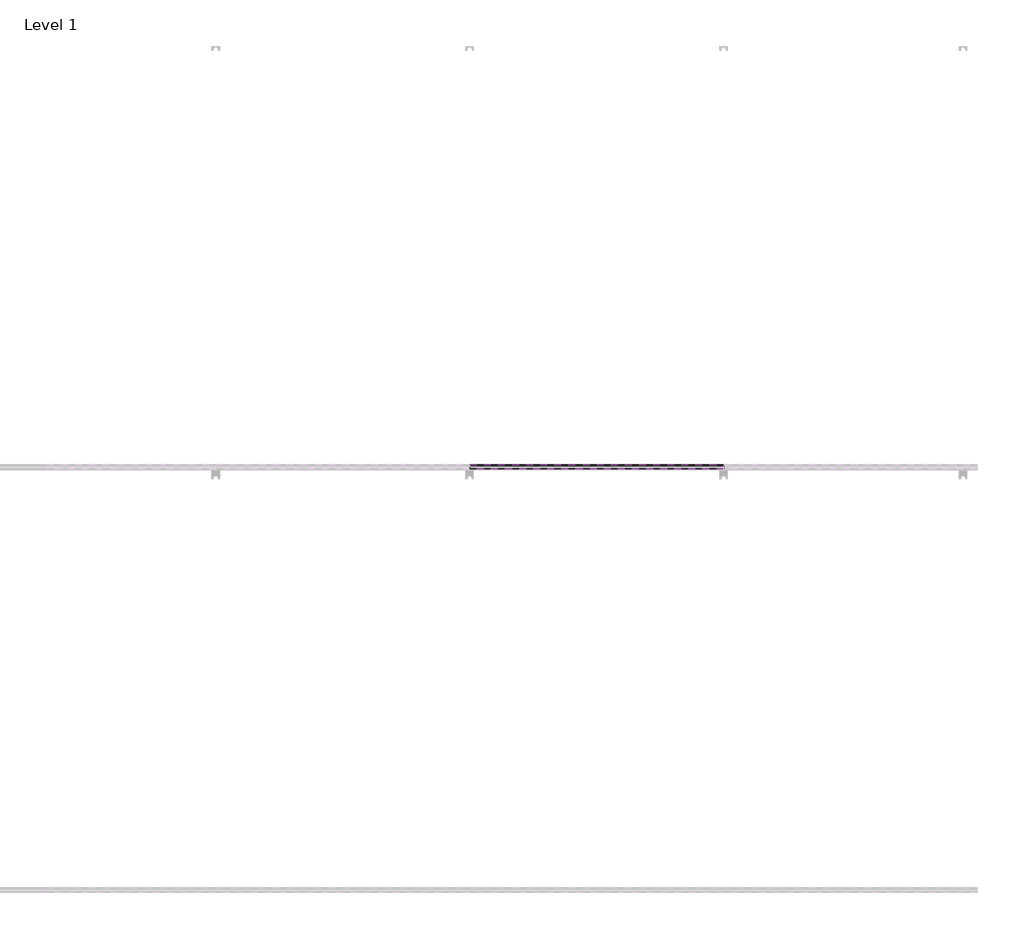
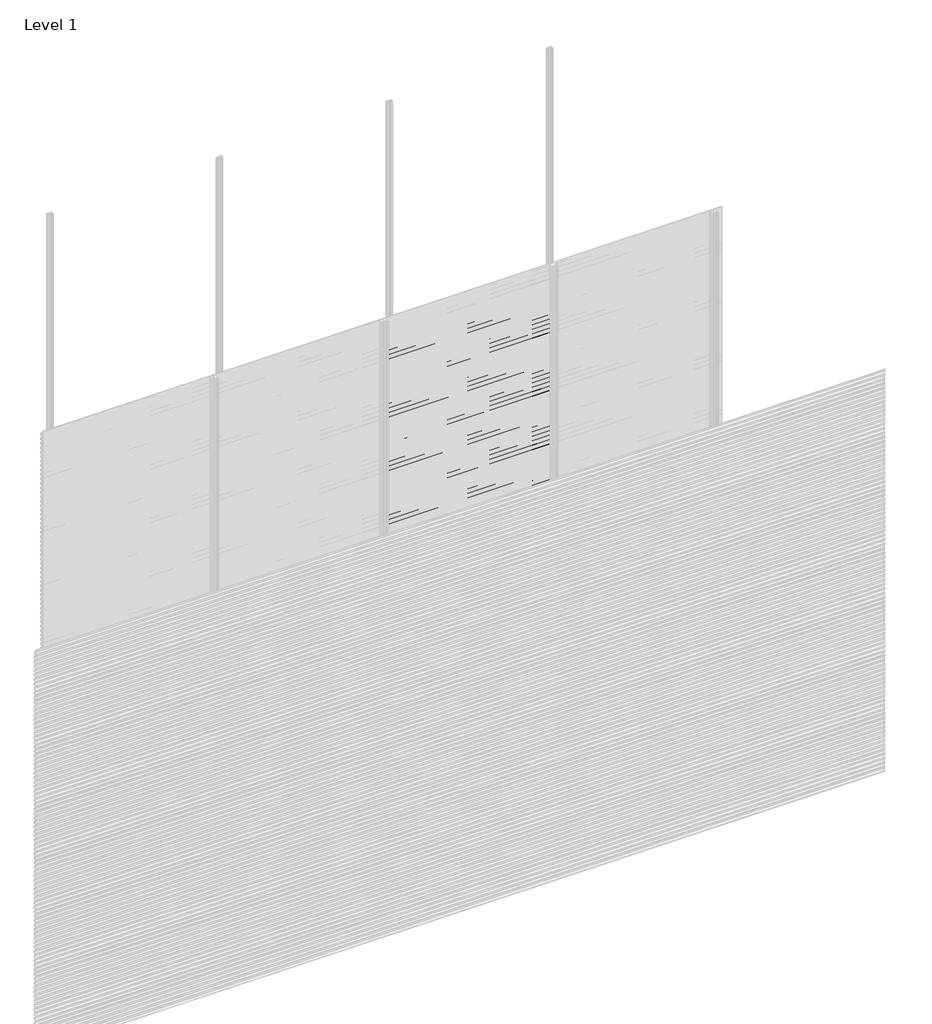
# One storey, part 61 of 77: 72 proxies.
"""IFC4 building model written with IfcOpenShell, lengths in millimetres."""

from ifc_helpers import new_model, si_unit, frame, origin, place, context, project, spatial, polyline, outline, extrude, element, save

model = new_model("IFC4")

# Units and contexts
model_context = context("Model", 3, world=origin())
ifc_project = project(units=[si_unit("LENGTHUNIT", "METRE", prefix="MILLI")], contexts=[model_context])

# Site, building, storey
site = spatial("IfcSite", under=ifc_project)
building = spatial("IfcBuilding", under=site)
storey = spatial("IfcBuildingStorey", under=building, Name="Level 1", Elevation=0.0)

# Proxies
placement = place(None, origin())
element("IfcBuildingElementProxy", 1, Name="Wall Sweeps", at=placement, inside=storey, context=model_context, shape_type="SweptSolid", body=[
    extrude(outline(polyline([(-11978.6, 2806.0359887), (-11998.0, 2817.2366691), (-11998.0, 2830.5), (-11997.0, 2830.5), (-11997.0, 2817.8191057), (-11977.6, 2806.6185105), (-11977.6, 2793.0185105), (-11978.6, 2794.5953129), (-11978.6, 2800.4032062), (-11995.9773817, 2792.3), (-11996.4, 2793.2063078), (-11978.6, 2801.5065841), (-11978.6, 2806.0359887)])), frame((3600.0, 0.0, 0.0), z_axis=(1.0, 0.0, 0.0), x_axis=(0.0, 1.0, 0.0)), (0.0, 0.0, 1.0), 1200.0),
])
element("IfcBuildingElementProxy", 2, Name="Wall Sweeps", at=placement, inside=storey, context=model_context, shape_type="SweptSolid", body=[
    extrude(outline(polyline([(-11978.6, 2772.7359887), (-11998.0, 2783.9366691), (-11998.0, 2797.2), (-11997.0, 2797.2), (-11997.0, 2784.5191057), (-11977.6, 2773.3185105), (-11977.6, 2759.7185105), (-11978.6, 2761.2953129), (-11978.6, 2767.1032062), (-11995.9773817, 2759.0), (-11996.4, 2759.9063078), (-11978.6, 2768.2065841), (-11978.6, 2772.7359887)])), frame((3600.0, 0.0, 0.0), z_axis=(1.0, 0.0, 0.0), x_axis=(0.0, 1.0, 0.0)), (0.0, 0.0, 1.0), 1200.0),
])
element("IfcBuildingElementProxy", 3, Name="Wall Sweeps", at=placement, inside=storey, context=model_context, shape_type="SweptSolid", body=[
    extrude(outline(polyline([(-11978.6, 2739.4359887), (-11998.0, 2750.6366691), (-11998.0, 2763.9), (-11997.0, 2763.9), (-11997.0, 2751.2191057), (-11977.6, 2740.0185105), (-11977.6, 2726.4185105), (-11978.6, 2727.9953129), (-11978.6, 2733.8032062), (-11995.9773817, 2725.7), (-11996.4, 2726.6063078), (-11978.6, 2734.9065841), (-11978.6, 2739.4359887)])), frame((3600.0, 0.0, 0.0), z_axis=(1.0, 0.0, 0.0), x_axis=(0.0, 1.0, 0.0)), (0.0, 0.0, 1.0), 1200.0),
])
element("IfcBuildingElementProxy", 4, Name="Wall Sweeps", at=placement, inside=storey, context=model_context, shape_type="SweptSolid", body=[
    extrude(outline(polyline([(-11978.6, 2706.1359887), (-11998.0, 2717.3366691), (-11998.0, 2730.6), (-11997.0, 2730.6), (-11997.0, 2717.9191057), (-11977.6, 2706.7185105), (-11977.6, 2693.1185105), (-11978.6, 2694.6953129), (-11978.6, 2700.5032062), (-11995.9773817, 2692.4), (-11996.4, 2693.3063078), (-11978.6, 2701.6065841), (-11978.6, 2706.1359887)])), frame((3600.0, 0.0, 0.0), z_axis=(1.0, 0.0, 0.0), x_axis=(0.0, 1.0, 0.0)), (0.0, 0.0, 1.0), 1200.0),
])
element("IfcBuildingElementProxy", 5, Name="Wall Sweeps", at=placement, inside=storey, context=model_context, shape_type="SweptSolid", body=[
    extrude(outline(polyline([(-11978.6, 2672.8359887), (-11998.0, 2684.0366691), (-11998.0, 2697.3), (-11997.0, 2697.3), (-11997.0, 2684.6191057), (-11977.6, 2673.4185105), (-11977.6, 2659.8185105), (-11978.6, 2661.3953129), (-11978.6, 2667.2032062), (-11995.9773817, 2659.1), (-11996.4, 2660.0063078), (-11978.6, 2668.3065841), (-11978.6, 2672.8359887)])), frame((3600.0, 0.0, 0.0), z_axis=(1.0, 0.0, 0.0), x_axis=(0.0, 1.0, 0.0)), (0.0, 0.0, 1.0), 1200.0),
])
element("IfcBuildingElementProxy", 6, Name="Wall Sweeps", at=placement, inside=storey, context=model_context, shape_type="SweptSolid", body=[
    extrude(outline(polyline([(-11978.6, 2639.5359887), (-11998.0, 2650.7366691), (-11998.0, 2664.0), (-11997.0, 2664.0), (-11997.0, 2651.3191057), (-11977.6, 2640.1185105), (-11977.6, 2626.5185105), (-11978.6, 2628.0953129), (-11978.6, 2633.9032062), (-11995.9773817, 2625.8), (-11996.4, 2626.7063078), (-11978.6, 2635.0065841), (-11978.6, 2639.5359887)])), frame((3600.0, 0.0, 0.0), z_axis=(1.0, 0.0, 0.0), x_axis=(0.0, 1.0, 0.0)), (0.0, 0.0, 1.0), 1200.0),
])
element("IfcBuildingElementProxy", 7, Name="Wall Sweeps", at=placement, inside=storey, context=model_context, shape_type="SweptSolid", body=[
    extrude(outline(polyline([(-11978.6, 2606.2359887), (-11998.0, 2617.4366691), (-11998.0, 2630.7), (-11997.0, 2630.7), (-11997.0, 2618.0191057), (-11977.6, 2606.8185105), (-11977.6, 2593.2185105), (-11978.6, 2594.7953129), (-11978.6, 2600.6032062), (-11995.9773817, 2592.5), (-11996.4, 2593.4063078), (-11978.6, 2601.7065841), (-11978.6, 2606.2359887)])), frame((3600.0, 0.0, 0.0), z_axis=(1.0, 0.0, 0.0), x_axis=(0.0, 1.0, 0.0)), (0.0, 0.0, 1.0), 1200.0),
])
element("IfcBuildingElementProxy", 8, Name="Wall Sweeps", at=placement, inside=storey, context=model_context, shape_type="SweptSolid", body=[
    extrude(outline(polyline([(-11978.6, 2572.9359887), (-11998.0, 2584.1366691), (-11998.0, 2597.4), (-11997.0, 2597.4), (-11997.0, 2584.7191057), (-11977.6, 2573.5185105), (-11977.6, 2559.9185105), (-11978.6, 2561.4953129), (-11978.6, 2567.3032062), (-11995.9773817, 2559.2), (-11996.4, 2560.1063078), (-11978.6, 2568.4065841), (-11978.6, 2572.9359887)])), frame((3600.0, 0.0, 0.0), z_axis=(1.0, 0.0, 0.0), x_axis=(0.0, 1.0, 0.0)), (0.0, 0.0, 1.0), 1200.0),
])
element("IfcBuildingElementProxy", 9, Name="Wall Sweeps", at=placement, inside=storey, context=model_context, shape_type="SweptSolid", body=[
    extrude(outline(polyline([(-11978.6, 2539.6359887), (-11998.0, 2550.8366691), (-11998.0, 2564.1), (-11997.0, 2564.1), (-11997.0, 2551.4191057), (-11977.6, 2540.2185105), (-11977.6, 2526.6185105), (-11978.6, 2528.1953129), (-11978.6, 2534.0032062), (-11995.9773817, 2525.9), (-11996.4, 2526.8063078), (-11978.6, 2535.1065841), (-11978.6, 2539.6359887)])), frame((3600.0, 0.0, 0.0), z_axis=(1.0, 0.0, 0.0), x_axis=(0.0, 1.0, 0.0)), (0.0, 0.0, 1.0), 1200.0),
])
element("IfcBuildingElementProxy", 10, Name="Wall Sweeps", at=placement, inside=storey, context=model_context, shape_type="SweptSolid", body=[
    extrude(outline(polyline([(-11978.6, 2506.3359887), (-11998.0, 2517.5366691), (-11998.0, 2530.8), (-11997.0, 2530.8), (-11997.0, 2518.1191057), (-11977.6, 2506.9185105), (-11977.6, 2493.3185105), (-11978.6, 2494.8953129), (-11978.6, 2500.7032062), (-11995.9773817, 2492.6), (-11996.4, 2493.5063078), (-11978.6, 2501.8065841), (-11978.6, 2506.3359887)])), frame((3600.0, 0.0, 0.0), z_axis=(1.0, 0.0, 0.0), x_axis=(0.0, 1.0, 0.0)), (0.0, 0.0, 1.0), 1200.0),
])
element("IfcBuildingElementProxy", 11, Name="Wall Sweeps", at=placement, inside=storey, context=model_context, shape_type="SweptSolid", body=[
    extrude(outline(polyline([(-11978.6, 2473.0359887), (-11998.0, 2484.2366691), (-11998.0, 2497.5), (-11997.0, 2497.5), (-11997.0, 2484.8191057), (-11977.6, 2473.6185105), (-11977.6, 2460.0185105), (-11978.6, 2461.5953129), (-11978.6, 2467.4032062), (-11995.9773817, 2459.3), (-11996.4, 2460.2063078), (-11978.6, 2468.5065841), (-11978.6, 2473.0359887)])), frame((3600.0, 0.0, 0.0), z_axis=(1.0, 0.0, 0.0), x_axis=(0.0, 1.0, 0.0)), (0.0, 0.0, 1.0), 1200.0),
])
element("IfcBuildingElementProxy", 12, Name="Wall Sweeps", at=placement, inside=storey, context=model_context, shape_type="SweptSolid", body=[
    extrude(outline(polyline([(-11978.6, 2439.7359887), (-11998.0, 2450.9366691), (-11998.0, 2464.2), (-11997.0, 2464.2), (-11997.0, 2451.5191057), (-11977.6, 2440.3185105), (-11977.6, 2426.7185105), (-11978.6, 2428.2953129), (-11978.6, 2434.1032062), (-11995.9773817, 2426.0), (-11996.4, 2426.9063078), (-11978.6, 2435.2065841), (-11978.6, 2439.7359887)])), frame((3600.0, 0.0, 0.0), z_axis=(1.0, 0.0, 0.0), x_axis=(0.0, 1.0, 0.0)), (0.0, 0.0, 1.0), 1200.0),
])
element("IfcBuildingElementProxy", 13, Name="Wall Sweeps", at=placement, inside=storey, context=model_context, shape_type="SweptSolid", body=[
    extrude(outline(polyline([(-11978.6, 2406.4359887), (-11998.0, 2417.6366691), (-11998.0, 2430.9), (-11997.0, 2430.9), (-11997.0, 2418.2191057), (-11977.6, 2407.0185105), (-11977.6, 2393.4185105), (-11978.6, 2394.9953129), (-11978.6, 2400.8032062), (-11995.9773817, 2392.7), (-11996.4, 2393.6063078), (-11978.6, 2401.9065841), (-11978.6, 2406.4359887)])), frame((3600.0, 0.0, 0.0), z_axis=(1.0, 0.0, 0.0), x_axis=(0.0, 1.0, 0.0)), (0.0, 0.0, 1.0), 1200.0),
])
element("IfcBuildingElementProxy", 14, Name="Wall Sweeps", at=placement, inside=storey, context=model_context, shape_type="SweptSolid", body=[
    extrude(outline(polyline([(-11978.6, 2373.1359887), (-11998.0, 2384.3366691), (-11998.0, 2397.6), (-11997.0, 2397.6), (-11997.0, 2384.9191057), (-11977.6, 2373.7185105), (-11977.6, 2360.1185105), (-11978.6, 2361.6953129), (-11978.6, 2367.5032062), (-11995.9773817, 2359.4), (-11996.4, 2360.3063078), (-11978.6, 2368.6065841), (-11978.6, 2373.1359887)])), frame((3600.0, 0.0, 0.0), z_axis=(1.0, 0.0, 0.0), x_axis=(0.0, 1.0, 0.0)), (0.0, 0.0, 1.0), 1200.0),
])
element("IfcBuildingElementProxy", 15, Name="Wall Sweeps", at=placement, inside=storey, context=model_context, shape_type="SweptSolid", body=[
    extrude(outline(polyline([(-11978.6, 2339.8359887), (-11998.0, 2351.0366691), (-11998.0, 2364.3), (-11997.0, 2364.3), (-11997.0, 2351.6191057), (-11977.6, 2340.4185105), (-11977.6, 2326.8185105), (-11978.6, 2328.3953129), (-11978.6, 2334.2032062), (-11995.9773817, 2326.1), (-11996.4, 2327.0063078), (-11978.6, 2335.3065841), (-11978.6, 2339.8359887)])), frame((3600.0, 0.0, 0.0), z_axis=(1.0, 0.0, 0.0), x_axis=(0.0, 1.0, 0.0)), (0.0, 0.0, 1.0), 1200.0),
])
element("IfcBuildingElementProxy", 16, Name="Wall Sweeps", at=placement, inside=storey, context=model_context, shape_type="SweptSolid", body=[
    extrude(outline(polyline([(-11978.6, 2306.5359887), (-11998.0, 2317.7366691), (-11998.0, 2331.0), (-11997.0, 2331.0), (-11997.0, 2318.3191057), (-11977.6, 2307.1185105), (-11977.6, 2293.5185105), (-11978.6, 2295.0953129), (-11978.6, 2300.9032062), (-11995.9773817, 2292.8), (-11996.4, 2293.7063078), (-11978.6, 2302.0065841), (-11978.6, 2306.5359887)])), frame((3600.0, 0.0, 0.0), z_axis=(1.0, 0.0, 0.0), x_axis=(0.0, 1.0, 0.0)), (0.0, 0.0, 1.0), 1200.0),
])
element("IfcBuildingElementProxy", 17, Name="Wall Sweeps", at=placement, inside=storey, context=model_context, shape_type="SweptSolid", body=[
    extrude(outline(polyline([(-11978.6, 2273.2359887), (-11998.0, 2284.4366691), (-11998.0, 2297.7), (-11997.0, 2297.7), (-11997.0, 2285.0191057), (-11977.6, 2273.8185105), (-11977.6, 2260.2185105), (-11978.6, 2261.7953129), (-11978.6, 2267.6032062), (-11995.9773817, 2259.5), (-11996.4, 2260.4063078), (-11978.6, 2268.7065841), (-11978.6, 2273.2359887)])), frame((3600.0, 0.0, 0.0), z_axis=(1.0, 0.0, 0.0), x_axis=(0.0, 1.0, 0.0)), (0.0, 0.0, 1.0), 1200.0),
])
element("IfcBuildingElementProxy", 18, Name="Wall Sweeps", at=placement, inside=storey, context=model_context, shape_type="SweptSolid", body=[
    extrude(outline(polyline([(-11978.6, 2239.9359887), (-11998.0, 2251.1366691), (-11998.0, 2264.4), (-11997.0, 2264.4), (-11997.0, 2251.7191057), (-11977.6, 2240.5185105), (-11977.6, 2226.9185105), (-11978.6, 2228.4953129), (-11978.6, 2234.3032062), (-11995.9773817, 2226.2), (-11996.4, 2227.1063078), (-11978.6, 2235.4065841), (-11978.6, 2239.9359887)])), frame((3600.0, 0.0, 0.0), z_axis=(1.0, 0.0, 0.0), x_axis=(0.0, 1.0, 0.0)), (0.0, 0.0, 1.0), 1200.0),
])
element("IfcBuildingElementProxy", 19, Name="Wall Sweeps", at=placement, inside=storey, context=model_context, shape_type="SweptSolid", body=[
    extrude(outline(polyline([(-11978.6, 2206.6359887), (-11998.0, 2217.8366691), (-11998.0, 2231.1), (-11997.0, 2231.1), (-11997.0, 2218.4191057), (-11977.6, 2207.2185105), (-11977.6, 2193.6185105), (-11978.6, 2195.1953129), (-11978.6, 2201.0032062), (-11995.9773817, 2192.9), (-11996.4, 2193.8063078), (-11978.6, 2202.1065841), (-11978.6, 2206.6359887)])), frame((3600.0, 0.0, 0.0), z_axis=(1.0, 0.0, 0.0), x_axis=(0.0, 1.0, 0.0)), (0.0, 0.0, 1.0), 1200.0),
])
element("IfcBuildingElementProxy", 20, Name="Wall Sweeps", at=placement, inside=storey, context=model_context, shape_type="SweptSolid", body=[
    extrude(outline(polyline([(-11978.6, 2173.3359887), (-11998.0, 2184.5366691), (-11998.0, 2197.8), (-11997.0, 2197.8), (-11997.0, 2185.1191057), (-11977.6, 2173.9185105), (-11977.6, 2160.3185105), (-11978.6, 2161.8953129), (-11978.6, 2167.7032062), (-11995.9773817, 2159.6), (-11996.4, 2160.5063078), (-11978.6, 2168.8065841), (-11978.6, 2173.3359887)])), frame((3600.0, 0.0, 0.0), z_axis=(1.0, 0.0, 0.0), x_axis=(0.0, 1.0, 0.0)), (0.0, 0.0, 1.0), 1200.0),
])
element("IfcBuildingElementProxy", 21, Name="Wall Sweeps", at=placement, inside=storey, context=model_context, shape_type="SweptSolid", body=[
    extrude(outline(polyline([(-11978.6, 2140.0359887), (-11998.0, 2151.2366691), (-11998.0, 2164.5), (-11997.0, 2164.5), (-11997.0, 2151.8191057), (-11977.6, 2140.6185105), (-11977.6, 2127.0185105), (-11978.6, 2128.5953129), (-11978.6, 2134.4032062), (-11995.9773817, 2126.3), (-11996.4, 2127.2063078), (-11978.6, 2135.5065841), (-11978.6, 2140.0359887)])), frame((3600.0, 0.0, 0.0), z_axis=(1.0, 0.0, 0.0), x_axis=(0.0, 1.0, 0.0)), (0.0, 0.0, 1.0), 1200.0),
])
element("IfcBuildingElementProxy", 22, Name="Wall Sweeps", at=placement, inside=storey, context=model_context, shape_type="SweptSolid", body=[
    extrude(outline(polyline([(-11978.6, 2106.7359887), (-11998.0, 2117.9366691), (-11998.0, 2131.2), (-11997.0, 2131.2), (-11997.0, 2118.5191057), (-11977.6, 2107.3185105), (-11977.6, 2093.7185105), (-11978.6, 2095.2953129), (-11978.6, 2101.1032062), (-11995.9773817, 2093.0), (-11996.4, 2093.9063078), (-11978.6, 2102.2065841), (-11978.6, 2106.7359887)])), frame((3600.0, 0.0, 0.0), z_axis=(1.0, 0.0, 0.0), x_axis=(0.0, 1.0, 0.0)), (0.0, 0.0, 1.0), 1200.0),
])
element("IfcBuildingElementProxy", 23, Name="Wall Sweeps", at=placement, inside=storey, context=model_context, shape_type="SweptSolid", body=[
    extrude(outline(polyline([(-11978.6, 2073.4359887), (-11998.0, 2084.6366691), (-11998.0, 2097.9), (-11997.0, 2097.9), (-11997.0, 2085.2191057), (-11977.6, 2074.0185105), (-11977.6, 2060.4185105), (-11978.6, 2061.9953129), (-11978.6, 2067.8032062), (-11995.9773817, 2059.7), (-11996.4, 2060.6063078), (-11978.6, 2068.9065841), (-11978.6, 2073.4359887)])), frame((3600.0, 0.0, 0.0), z_axis=(1.0, 0.0, 0.0), x_axis=(0.0, 1.0, 0.0)), (0.0, 0.0, 1.0), 1200.0),
])
element("IfcBuildingElementProxy", 24, Name="Wall Sweeps", at=placement, inside=storey, context=model_context, shape_type="SweptSolid", body=[
    extrude(outline(polyline([(-11978.6, 2040.1359887), (-11998.0, 2051.3366691), (-11998.0, 2064.6), (-11997.0, 2064.6), (-11997.0, 2051.9191057), (-11977.6, 2040.7185105), (-11977.6, 2027.1185105), (-11978.6, 2028.6953129), (-11978.6, 2034.5032062), (-11995.9773817, 2026.4), (-11996.4, 2027.3063078), (-11978.6, 2035.6065841), (-11978.6, 2040.1359887)])), frame((3600.0, 0.0, 0.0), z_axis=(1.0, 0.0, 0.0), x_axis=(0.0, 1.0, 0.0)), (0.0, 0.0, 1.0), 1200.0),
])
element("IfcBuildingElementProxy", 25, Name="Wall Sweeps", at=placement, inside=storey, context=model_context, shape_type="SweptSolid", body=[
    extrude(outline(polyline([(-11978.6, 2006.8359887), (-11998.0, 2018.0366691), (-11998.0, 2031.3), (-11997.0, 2031.3), (-11997.0, 2018.6191057), (-11977.6, 2007.4185105), (-11977.6, 1993.8185105), (-11978.6, 1995.3953129), (-11978.6, 2001.2032062), (-11995.9773817, 1993.1), (-11996.4, 1994.0063078), (-11978.6, 2002.3065841), (-11978.6, 2006.8359887)])), frame((3600.0, 0.0, 0.0), z_axis=(1.0, 0.0, 0.0), x_axis=(0.0, 1.0, 0.0)), (0.0, 0.0, 1.0), 1200.0),
])
element("IfcBuildingElementProxy", 26, Name="Wall Sweeps", at=placement, inside=storey, context=model_context, shape_type="SweptSolid", body=[
    extrude(outline(polyline([(-11978.6, 1973.5359887), (-11998.0, 1984.7366691), (-11998.0, 1998.0), (-11997.0, 1998.0), (-11997.0, 1985.3191057), (-11977.6, 1974.1185105), (-11977.6, 1960.5185105), (-11978.6, 1962.0953129), (-11978.6, 1967.9032062), (-11995.9773817, 1959.8), (-11996.4, 1960.7063078), (-11978.6, 1969.0065841), (-11978.6, 1973.5359887)])), frame((3600.0, 0.0, 0.0), z_axis=(1.0, 0.0, 0.0), x_axis=(0.0, 1.0, 0.0)), (0.0, 0.0, 1.0), 1200.0),
])
element("IfcBuildingElementProxy", 27, Name="Wall Sweeps", at=placement, inside=storey, context=model_context, shape_type="SweptSolid", body=[
    extrude(outline(polyline([(-11978.6, 1940.2359887), (-11998.0, 1951.4366691), (-11998.0, 1964.7), (-11997.0, 1964.7), (-11997.0, 1952.0191057), (-11977.6, 1940.8185105), (-11977.6, 1927.2185105), (-11978.6, 1928.7953129), (-11978.6, 1934.6032062), (-11995.9773817, 1926.5), (-11996.4, 1927.4063078), (-11978.6, 1935.7065841), (-11978.6, 1940.2359887)])), frame((3600.0, 0.0, 0.0), z_axis=(1.0, 0.0, 0.0), x_axis=(0.0, 1.0, 0.0)), (0.0, 0.0, 1.0), 1200.0),
])
element("IfcBuildingElementProxy", 28, Name="Wall Sweeps", at=placement, inside=storey, context=model_context, shape_type="SweptSolid", body=[
    extrude(outline(polyline([(-11978.6, 1906.9359887), (-11998.0, 1918.1366691), (-11998.0, 1931.4), (-11997.0, 1931.4), (-11997.0, 1918.7191057), (-11977.6, 1907.5185105), (-11977.6, 1893.9185105), (-11978.6, 1895.4953129), (-11978.6, 1901.3032062), (-11995.9773817, 1893.2), (-11996.4, 1894.1063078), (-11978.6, 1902.4065841), (-11978.6, 1906.9359887)])), frame((3600.0, 0.0, 0.0), z_axis=(1.0, 0.0, 0.0), x_axis=(0.0, 1.0, 0.0)), (0.0, 0.0, 1.0), 1200.0),
])
element("IfcBuildingElementProxy", 29, Name="Wall Sweeps", at=placement, inside=storey, context=model_context, shape_type="SweptSolid", body=[
    extrude(outline(polyline([(-11978.6, 1873.6359887), (-11998.0, 1884.8366691), (-11998.0, 1898.1), (-11997.0, 1898.1), (-11997.0, 1885.4191057), (-11977.6, 1874.2185105), (-11977.6, 1860.6185105), (-11978.6, 1862.1953129), (-11978.6, 1868.0032062), (-11995.9773817, 1859.9), (-11996.4, 1860.8063078), (-11978.6, 1869.1065841), (-11978.6, 1873.6359887)])), frame((3600.0, 0.0, 0.0), z_axis=(1.0, 0.0, 0.0), x_axis=(0.0, 1.0, 0.0)), (0.0, 0.0, 1.0), 1200.0),
])
element("IfcBuildingElementProxy", 30, Name="Wall Sweeps", at=placement, inside=storey, context=model_context, shape_type="SweptSolid", body=[
    extrude(outline(polyline([(-11978.6, 1840.3359887), (-11998.0, 1851.5366691), (-11998.0, 1864.8), (-11997.0, 1864.8), (-11997.0, 1852.1191057), (-11977.6, 1840.9185105), (-11977.6, 1827.3185105), (-11978.6, 1828.8953129), (-11978.6, 1834.7032062), (-11995.9773817, 1826.6), (-11996.4, 1827.5063078), (-11978.6, 1835.8065841), (-11978.6, 1840.3359887)])), frame((3600.0, 0.0, 0.0), z_axis=(1.0, 0.0, 0.0), x_axis=(0.0, 1.0, 0.0)), (0.0, 0.0, 1.0), 1200.0),
])
element("IfcBuildingElementProxy", 31, Name="Wall Sweeps", at=placement, inside=storey, context=model_context, shape_type="SweptSolid", body=[
    extrude(outline(polyline([(-11978.6, 1807.0359887), (-11998.0, 1818.2366691), (-11998.0, 1831.5), (-11997.0, 1831.5), (-11997.0, 1818.8191057), (-11977.6, 1807.6185105), (-11977.6, 1794.0185105), (-11978.6, 1795.5953129), (-11978.6, 1801.4032062), (-11995.9773817, 1793.3), (-11996.4, 1794.2063078), (-11978.6, 1802.5065841), (-11978.6, 1807.0359887)])), frame((3600.0, 0.0, 0.0), z_axis=(1.0, 0.0, 0.0), x_axis=(0.0, 1.0, 0.0)), (0.0, 0.0, 1.0), 1200.0),
])
element("IfcBuildingElementProxy", 32, Name="Wall Sweeps", at=placement, inside=storey, context=model_context, shape_type="SweptSolid", body=[
    extrude(outline(polyline([(-11978.6, 1773.7359887), (-11998.0, 1784.9366691), (-11998.0, 1798.2), (-11997.0, 1798.2), (-11997.0, 1785.5191057), (-11977.6, 1774.3185105), (-11977.6, 1760.7185105), (-11978.6, 1762.2953129), (-11978.6, 1768.1032062), (-11995.9773817, 1760.0), (-11996.4, 1760.9063078), (-11978.6, 1769.2065841), (-11978.6, 1773.7359887)])), frame((3600.0, 0.0, 0.0), z_axis=(1.0, 0.0, 0.0), x_axis=(0.0, 1.0, 0.0)), (0.0, 0.0, 1.0), 1200.0),
])
element("IfcBuildingElementProxy", 33, Name="Wall Sweeps", at=placement, inside=storey, context=model_context, shape_type="SweptSolid", body=[
    extrude(outline(polyline([(-11978.6, 1740.4359887), (-11998.0, 1751.6366691), (-11998.0, 1764.9), (-11997.0, 1764.9), (-11997.0, 1752.2191057), (-11977.6, 1741.0185105), (-11977.6, 1727.4185105), (-11978.6, 1728.9953129), (-11978.6, 1734.8032062), (-11995.9773817, 1726.7), (-11996.4, 1727.6063078), (-11978.6, 1735.9065841), (-11978.6, 1740.4359887)])), frame((3600.0, 0.0, 0.0), z_axis=(1.0, 0.0, 0.0), x_axis=(0.0, 1.0, 0.0)), (0.0, 0.0, 1.0), 1200.0),
])
element("IfcBuildingElementProxy", 34, Name="Wall Sweeps", at=placement, inside=storey, context=model_context, shape_type="SweptSolid", body=[
    extrude(outline(polyline([(-11978.6, 1707.1359887), (-11998.0, 1718.3366691), (-11998.0, 1731.6), (-11997.0, 1731.6), (-11997.0, 1718.9191057), (-11977.6, 1707.7185105), (-11977.6, 1694.1185105), (-11978.6, 1695.6953129), (-11978.6, 1701.5032062), (-11995.9773817, 1693.4), (-11996.4, 1694.3063078), (-11978.6, 1702.6065841), (-11978.6, 1707.1359887)])), frame((3600.0, 0.0, 0.0), z_axis=(1.0, 0.0, 0.0), x_axis=(0.0, 1.0, 0.0)), (0.0, 0.0, 1.0), 1200.0),
])
element("IfcBuildingElementProxy", 35, Name="Wall Sweeps", at=placement, inside=storey, context=model_context, shape_type="SweptSolid", body=[
    extrude(outline(polyline([(-11978.6, 1673.8359887), (-11998.0, 1685.0366691), (-11998.0, 1698.3), (-11997.0, 1698.3), (-11997.0, 1685.6191057), (-11977.6, 1674.4185105), (-11977.6, 1660.8185105), (-11978.6, 1662.3953129), (-11978.6, 1668.2032062), (-11995.9773817, 1660.1), (-11996.4, 1661.0063078), (-11978.6, 1669.3065841), (-11978.6, 1673.8359887)])), frame((3600.0, 0.0, 0.0), z_axis=(1.0, 0.0, 0.0), x_axis=(0.0, 1.0, 0.0)), (0.0, 0.0, 1.0), 1200.0),
])
element("IfcBuildingElementProxy", 36, Name="Wall Sweeps", at=placement, inside=storey, context=model_context, shape_type="SweptSolid", body=[
    extrude(outline(polyline([(-11978.6, 1640.5359887), (-11998.0, 1651.7366691), (-11998.0, 1665.0), (-11997.0, 1665.0), (-11997.0, 1652.3191057), (-11977.6, 1641.1185105), (-11977.6, 1627.5185105), (-11978.6, 1629.0953129), (-11978.6, 1634.9032062), (-11995.9773817, 1626.8), (-11996.4, 1627.7063078), (-11978.6, 1636.0065841), (-11978.6, 1640.5359887)])), frame((3600.0, 0.0, 0.0), z_axis=(1.0, 0.0, 0.0), x_axis=(0.0, 1.0, 0.0)), (0.0, 0.0, 1.0), 1200.0),
])
element("IfcBuildingElementProxy", 37, Name="Wall Sweeps", at=placement, inside=storey, context=model_context, shape_type="SweptSolid", body=[
    extrude(outline(polyline([(-11978.6, 1607.2359887), (-11998.0, 1618.4366691), (-11998.0, 1631.7), (-11997.0, 1631.7), (-11997.0, 1619.0191057), (-11977.6, 1607.8185105), (-11977.6, 1594.2185105), (-11978.6, 1595.7953129), (-11978.6, 1601.6032062), (-11995.9773817, 1593.5), (-11996.4, 1594.4063078), (-11978.6, 1602.7065841), (-11978.6, 1607.2359887)])), frame((3600.0, 0.0, 0.0), z_axis=(1.0, 0.0, 0.0), x_axis=(0.0, 1.0, 0.0)), (0.0, 0.0, 1.0), 1200.0),
])
element("IfcBuildingElementProxy", 38, Name="Wall Sweeps", at=placement, inside=storey, context=model_context, shape_type="SweptSolid", body=[
    extrude(outline(polyline([(-11978.6, 1573.9359887), (-11998.0, 1585.1366691), (-11998.0, 1598.4), (-11997.0, 1598.4), (-11997.0, 1585.7191057), (-11977.6, 1574.5185105), (-11977.6, 1560.9185105), (-11978.6, 1562.4953129), (-11978.6, 1568.3032062), (-11995.9773817, 1560.2), (-11996.4, 1561.1063078), (-11978.6, 1569.4065841), (-11978.6, 1573.9359887)])), frame((3600.0, 0.0, 0.0), z_axis=(1.0, 0.0, 0.0), x_axis=(0.0, 1.0, 0.0)), (0.0, 0.0, 1.0), 1200.0),
])
element("IfcBuildingElementProxy", 39, Name="Wall Sweeps", at=placement, inside=storey, context=model_context, shape_type="SweptSolid", body=[
    extrude(outline(polyline([(-11978.6, 1540.6359887), (-11998.0, 1551.8366691), (-11998.0, 1565.1), (-11997.0, 1565.1), (-11997.0, 1552.4191057), (-11977.6, 1541.2185105), (-11977.6, 1527.6185105), (-11978.6, 1529.1953129), (-11978.6, 1535.0032062), (-11995.9773817, 1526.9), (-11996.4, 1527.8063078), (-11978.6, 1536.1065841), (-11978.6, 1540.6359887)])), frame((3600.0, 0.0, 0.0), z_axis=(1.0, 0.0, 0.0), x_axis=(0.0, 1.0, 0.0)), (0.0, 0.0, 1.0), 1200.0),
])
element("IfcBuildingElementProxy", 40, Name="Wall Sweeps", at=placement, inside=storey, context=model_context, shape_type="SweptSolid", body=[
    extrude(outline(polyline([(-11978.6, 1507.3359887), (-11998.0, 1518.5366691), (-11998.0, 1531.8), (-11997.0, 1531.8), (-11997.0, 1519.1191057), (-11977.6, 1507.9185105), (-11977.6, 1494.3185105), (-11978.6, 1495.8953129), (-11978.6, 1501.7032062), (-11995.9773817, 1493.6), (-11996.4, 1494.5063078), (-11978.6, 1502.8065841), (-11978.6, 1507.3359887)])), frame((3600.0, 0.0, 0.0), z_axis=(1.0, 0.0, 0.0), x_axis=(0.0, 1.0, 0.0)), (0.0, 0.0, 1.0), 1200.0),
])
element("IfcBuildingElementProxy", 41, Name="Wall Sweeps", at=placement, inside=storey, context=model_context, shape_type="SweptSolid", body=[
    extrude(outline(polyline([(-11978.6, 1474.0359887), (-11998.0, 1485.2366691), (-11998.0, 1498.5), (-11997.0, 1498.5), (-11997.0, 1485.8191057), (-11977.6, 1474.6185105), (-11977.6, 1461.0185105), (-11978.6, 1462.5953129), (-11978.6, 1468.4032062), (-11995.9773817, 1460.3), (-11996.4, 1461.2063078), (-11978.6, 1469.5065841), (-11978.6, 1474.0359887)])), frame((3600.0, 0.0, 0.0), z_axis=(1.0, 0.0, 0.0), x_axis=(0.0, 1.0, 0.0)), (0.0, 0.0, 1.0), 1200.0),
])
element("IfcBuildingElementProxy", 42, Name="Wall Sweeps", at=placement, inside=storey, context=model_context, shape_type="SweptSolid", body=[
    extrude(outline(polyline([(-11978.6, 1440.7359887), (-11998.0, 1451.9366691), (-11998.0, 1465.2), (-11997.0, 1465.2), (-11997.0, 1452.5191057), (-11977.6, 1441.3185105), (-11977.6, 1427.7185105), (-11978.6, 1429.2953129), (-11978.6, 1435.1032062), (-11995.9773817, 1427.0), (-11996.4, 1427.9063078), (-11978.6, 1436.2065841), (-11978.6, 1440.7359887)])), frame((3600.0, 0.0, 0.0), z_axis=(1.0, 0.0, 0.0), x_axis=(0.0, 1.0, 0.0)), (0.0, 0.0, 1.0), 1200.0),
])
element("IfcBuildingElementProxy", 43, Name="Wall Sweeps", at=placement, inside=storey, context=model_context, shape_type="SweptSolid", body=[
    extrude(outline(polyline([(-11978.6, 1407.4359887), (-11998.0, 1418.6366691), (-11998.0, 1431.9), (-11997.0, 1431.9), (-11997.0, 1419.2191057), (-11977.6, 1408.0185105), (-11977.6, 1394.4185105), (-11978.6, 1395.9953129), (-11978.6, 1401.8032062), (-11995.9773817, 1393.7), (-11996.4, 1394.6063078), (-11978.6, 1402.9065841), (-11978.6, 1407.4359887)])), frame((3600.0, 0.0, 0.0), z_axis=(1.0, 0.0, 0.0), x_axis=(0.0, 1.0, 0.0)), (0.0, 0.0, 1.0), 1200.0),
])
element("IfcBuildingElementProxy", 44, Name="Wall Sweeps", at=placement, inside=storey, context=model_context, shape_type="SweptSolid", body=[
    extrude(outline(polyline([(-11978.6, 1374.1359887), (-11998.0, 1385.3366691), (-11998.0, 1398.6), (-11997.0, 1398.6), (-11997.0, 1385.9191057), (-11977.6, 1374.7185105), (-11977.6, 1361.1185105), (-11978.6, 1362.6953129), (-11978.6, 1368.5032062), (-11995.9773817, 1360.4), (-11996.4, 1361.3063078), (-11978.6, 1369.6065841), (-11978.6, 1374.1359887)])), frame((3600.0, 0.0, 0.0), z_axis=(1.0, 0.0, 0.0), x_axis=(0.0, 1.0, 0.0)), (0.0, 0.0, 1.0), 1200.0),
])
element("IfcBuildingElementProxy", 45, Name="Wall Sweeps", at=placement, inside=storey, context=model_context, shape_type="SweptSolid", body=[
    extrude(outline(polyline([(-11978.6, 1340.8359887), (-11998.0, 1352.0366691), (-11998.0, 1365.3), (-11997.0, 1365.3), (-11997.0, 1352.6191057), (-11977.6, 1341.4185105), (-11977.6, 1327.8185105), (-11978.6, 1329.3953129), (-11978.6, 1335.2032062), (-11995.9773817, 1327.1), (-11996.4, 1328.0063078), (-11978.6, 1336.3065841), (-11978.6, 1340.8359887)])), frame((3600.0, 0.0, 0.0), z_axis=(1.0, 0.0, 0.0), x_axis=(0.0, 1.0, 0.0)), (0.0, 0.0, 1.0), 1200.0),
])
element("IfcBuildingElementProxy", 46, Name="Wall Sweeps", at=placement, inside=storey, context=model_context, shape_type="SweptSolid", body=[
    extrude(outline(polyline([(-11978.6, 1307.5359887), (-11998.0, 1318.7366691), (-11998.0, 1332.0), (-11997.0, 1332.0), (-11997.0, 1319.3191057), (-11977.6, 1308.1185105), (-11977.6, 1294.5185105), (-11978.6, 1296.0953129), (-11978.6, 1301.9032062), (-11995.9773817, 1293.8), (-11996.4, 1294.7063078), (-11978.6, 1303.0065841), (-11978.6, 1307.5359887)])), frame((3600.0, 0.0, 0.0), z_axis=(1.0, 0.0, 0.0), x_axis=(0.0, 1.0, 0.0)), (0.0, 0.0, 1.0), 1200.0),
])
element("IfcBuildingElementProxy", 47, Name="Wall Sweeps", at=placement, inside=storey, context=model_context, shape_type="SweptSolid", body=[
    extrude(outline(polyline([(-11978.6, 1274.2359887), (-11998.0, 1285.4366691), (-11998.0, 1298.7), (-11997.0, 1298.7), (-11997.0, 1286.0191057), (-11977.6, 1274.8185105), (-11977.6, 1261.2185105), (-11978.6, 1262.7953129), (-11978.6, 1268.6032062), (-11995.9773817, 1260.5), (-11996.4, 1261.4063078), (-11978.6, 1269.7065841), (-11978.6, 1274.2359887)])), frame((3600.0, 0.0, 0.0), z_axis=(1.0, 0.0, 0.0), x_axis=(0.0, 1.0, 0.0)), (0.0, 0.0, 1.0), 1200.0),
])
element("IfcBuildingElementProxy", 48, Name="Wall Sweeps", at=placement, inside=storey, context=model_context, shape_type="SweptSolid", body=[
    extrude(outline(polyline([(-11978.6, 1240.9359887), (-11998.0, 1252.1366691), (-11998.0, 1265.4), (-11997.0, 1265.4), (-11997.0, 1252.7191057), (-11977.6, 1241.5185105), (-11977.6, 1227.9185105), (-11978.6, 1229.4953129), (-11978.6, 1235.3032062), (-11995.9773817, 1227.2), (-11996.4, 1228.1063078), (-11978.6, 1236.4065841), (-11978.6, 1240.9359887)])), frame((3600.0, 0.0, 0.0), z_axis=(1.0, 0.0, 0.0), x_axis=(0.0, 1.0, 0.0)), (0.0, 0.0, 1.0), 1200.0),
])
element("IfcBuildingElementProxy", 49, Name="Wall Sweeps", at=placement, inside=storey, context=model_context, shape_type="SweptSolid", body=[
    extrude(outline(polyline([(-11978.6, 1207.6359887), (-11998.0, 1218.8366691), (-11998.0, 1232.1), (-11997.0, 1232.1), (-11997.0, 1219.4191057), (-11977.6, 1208.2185105), (-11977.6, 1194.6185105), (-11978.6, 1196.1953129), (-11978.6, 1202.0032062), (-11995.9773817, 1193.9), (-11996.4, 1194.8063078), (-11978.6, 1203.1065841), (-11978.6, 1207.6359887)])), frame((3600.0, 0.0, 0.0), z_axis=(1.0, 0.0, 0.0), x_axis=(0.0, 1.0, 0.0)), (0.0, 0.0, 1.0), 1200.0),
])
element("IfcBuildingElementProxy", 50, Name="Wall Sweeps", at=placement, inside=storey, context=model_context, shape_type="SweptSolid", body=[
    extrude(outline(polyline([(-11978.6, 1174.3359887), (-11998.0, 1185.5366691), (-11998.0, 1198.8), (-11997.0, 1198.8), (-11997.0, 1186.1191057), (-11977.6, 1174.9185105), (-11977.6, 1161.3185105), (-11978.6, 1162.8953129), (-11978.6, 1168.7032062), (-11995.9773817, 1160.6), (-11996.4, 1161.5063078), (-11978.6, 1169.8065841), (-11978.6, 1174.3359887)])), frame((3600.0, 0.0, 0.0), z_axis=(1.0, 0.0, 0.0), x_axis=(0.0, 1.0, 0.0)), (0.0, 0.0, 1.0), 1200.0),
])
element("IfcBuildingElementProxy", 51, Name="Wall Sweeps", at=placement, inside=storey, context=model_context, shape_type="SweptSolid", body=[
    extrude(outline(polyline([(-11978.6, 1141.0359887), (-11998.0, 1152.2366691), (-11998.0, 1165.5), (-11997.0, 1165.5), (-11997.0, 1152.8191057), (-11977.6, 1141.6185105), (-11977.6, 1128.0185105), (-11978.6, 1129.5953129), (-11978.6, 1135.4032062), (-11995.9773817, 1127.3), (-11996.4, 1128.2063078), (-11978.6, 1136.5065841), (-11978.6, 1141.0359887)])), frame((3600.0, 0.0, 0.0), z_axis=(1.0, 0.0, 0.0), x_axis=(0.0, 1.0, 0.0)), (0.0, 0.0, 1.0), 1200.0),
])
element("IfcBuildingElementProxy", 52, Name="Wall Sweeps", at=placement, inside=storey, context=model_context, shape_type="SweptSolid", body=[
    extrude(outline(polyline([(-11978.6, 1107.7359887), (-11998.0, 1118.9366691), (-11998.0, 1132.2), (-11997.0, 1132.2), (-11997.0, 1119.5191057), (-11977.6, 1108.3185105), (-11977.6, 1094.7185105), (-11978.6, 1096.2953129), (-11978.6, 1102.1032062), (-11995.9773817, 1094.0), (-11996.4, 1094.9063078), (-11978.6, 1103.2065841), (-11978.6, 1107.7359887)])), frame((3600.0, 0.0, 0.0), z_axis=(1.0, 0.0, 0.0), x_axis=(0.0, 1.0, 0.0)), (0.0, 0.0, 1.0), 1200.0),
])
element("IfcBuildingElementProxy", 53, Name="Wall Sweeps", at=placement, inside=storey, context=model_context, shape_type="SweptSolid", body=[
    extrude(outline(polyline([(-11978.6, 1074.4359887), (-11998.0, 1085.6366691), (-11998.0, 1098.9), (-11997.0, 1098.9), (-11997.0, 1086.2191057), (-11977.6, 1075.0185105), (-11977.6, 1061.4185105), (-11978.6, 1062.9953129), (-11978.6, 1068.8032062), (-11995.9773817, 1060.7), (-11996.4, 1061.6063078), (-11978.6, 1069.9065841), (-11978.6, 1074.4359887)])), frame((3600.0, 0.0, 0.0), z_axis=(1.0, 0.0, 0.0), x_axis=(0.0, 1.0, 0.0)), (0.0, 0.0, 1.0), 1200.0),
])
element("IfcBuildingElementProxy", 54, Name="Wall Sweeps", at=placement, inside=storey, context=model_context, shape_type="SweptSolid", body=[
    extrude(outline(polyline([(-11978.6, 1041.1359887), (-11998.0, 1052.3366691), (-11998.0, 1065.6), (-11997.0, 1065.6), (-11997.0, 1052.9191057), (-11977.6, 1041.7185105), (-11977.6, 1028.1185105), (-11978.6, 1029.6953129), (-11978.6, 1035.5032062), (-11995.9773817, 1027.4), (-11996.4, 1028.3063078), (-11978.6, 1036.6065841), (-11978.6, 1041.1359887)])), frame((3600.0, 0.0, 0.0), z_axis=(1.0, 0.0, 0.0), x_axis=(0.0, 1.0, 0.0)), (0.0, 0.0, 1.0), 1200.0),
])
element("IfcBuildingElementProxy", 55, Name="Wall Sweeps", at=placement, inside=storey, context=model_context, shape_type="SweptSolid", body=[
    extrude(outline(polyline([(-11978.6, 1007.8359887), (-11998.0, 1019.0366691), (-11998.0, 1032.3), (-11997.0, 1032.3), (-11997.0, 1019.6191057), (-11977.6, 1008.4185105), (-11977.6, 994.8185105), (-11978.6, 996.3953129), (-11978.6, 1002.2032062), (-11995.9773817, 994.1), (-11996.4, 995.0063078), (-11978.6, 1003.3065841), (-11978.6, 1007.8359887)])), frame((3600.0, 0.0, 0.0), z_axis=(1.0, 0.0, 0.0), x_axis=(0.0, 1.0, 0.0)), (0.0, 0.0, 1.0), 1200.0),
])
element("IfcBuildingElementProxy", 56, Name="Wall Sweeps", at=placement, inside=storey, context=model_context, shape_type="SweptSolid", body=[
    extrude(outline(polyline([(-11978.6, 974.5359887), (-11998.0, 985.7366691), (-11998.0, 999.0), (-11997.0, 999.0), (-11997.0, 986.3191057), (-11977.6, 975.1185105), (-11977.6, 961.5185105), (-11978.6, 963.0953129), (-11978.6, 968.9032062), (-11995.9773817, 960.8), (-11996.4, 961.7063078), (-11978.6, 970.0065841), (-11978.6, 974.5359887)])), frame((3600.0, 0.0, 0.0), z_axis=(1.0, 0.0, 0.0), x_axis=(0.0, 1.0, 0.0)), (0.0, 0.0, 1.0), 1200.0),
])
element("IfcBuildingElementProxy", 57, Name="Wall Sweeps", at=placement, inside=storey, context=model_context, shape_type="SweptSolid", body=[
    extrude(outline(polyline([(-11978.6, 941.2359887), (-11998.0, 952.4366691), (-11998.0, 965.7), (-11997.0, 965.7), (-11997.0, 953.0191057), (-11977.6, 941.8185105), (-11977.6, 928.2185105), (-11978.6, 929.7953129), (-11978.6, 935.6032062), (-11995.9773817, 927.5), (-11996.4, 928.4063078), (-11978.6, 936.7065841), (-11978.6, 941.2359887)])), frame((3600.0, 0.0, 0.0), z_axis=(1.0, 0.0, 0.0), x_axis=(0.0, 1.0, 0.0)), (0.0, 0.0, 1.0), 1200.0),
])
element("IfcBuildingElementProxy", 58, Name="Wall Sweeps", at=placement, inside=storey, context=model_context, shape_type="SweptSolid", body=[
    extrude(outline(polyline([(-11978.6, 907.9359887), (-11998.0, 919.1366691), (-11998.0, 932.4), (-11997.0, 932.4), (-11997.0, 919.7191057), (-11977.6, 908.5185105), (-11977.6, 894.9185105), (-11978.6, 896.4953129), (-11978.6, 902.3032062), (-11995.9773817, 894.2), (-11996.4, 895.1063078), (-11978.6, 903.4065841), (-11978.6, 907.9359887)])), frame((3600.0, 0.0, 0.0), z_axis=(1.0, 0.0, 0.0), x_axis=(0.0, 1.0, 0.0)), (0.0, 0.0, 1.0), 1200.0),
])
element("IfcBuildingElementProxy", 59, Name="Wall Sweeps", at=placement, inside=storey, context=model_context, shape_type="SweptSolid", body=[
    extrude(outline(polyline([(-11978.6, 874.6359887), (-11998.0, 885.8366691), (-11998.0, 899.1), (-11997.0, 899.1), (-11997.0, 886.4191057), (-11977.6, 875.2185105), (-11977.6, 861.6185105), (-11978.6, 863.1953129), (-11978.6, 869.0032062), (-11995.9773817, 860.9), (-11996.4, 861.8063078), (-11978.6, 870.1065841), (-11978.6, 874.6359887)])), frame((3600.0, 0.0, 0.0), z_axis=(1.0, 0.0, 0.0), x_axis=(0.0, 1.0, 0.0)), (0.0, 0.0, 1.0), 1200.0),
])
element("IfcBuildingElementProxy", 60, Name="Wall Sweeps", at=placement, inside=storey, context=model_context, shape_type="SweptSolid", body=[
    extrude(outline(polyline([(-11978.6, 841.3359887), (-11998.0, 852.5366691), (-11998.0, 865.8), (-11997.0, 865.8), (-11997.0, 853.1191057), (-11977.6, 841.9185105), (-11977.6, 828.3185105), (-11978.6, 829.8953129), (-11978.6, 835.7032062), (-11995.9773817, 827.6), (-11996.4, 828.5063078), (-11978.6, 836.8065841), (-11978.6, 841.3359887)])), frame((3600.0, 0.0, 0.0), z_axis=(1.0, 0.0, 0.0), x_axis=(0.0, 1.0, 0.0)), (0.0, 0.0, 1.0), 1200.0),
])
element("IfcBuildingElementProxy", 61, Name="Wall Sweeps", at=placement, inside=storey, context=model_context, shape_type="SweptSolid", body=[
    extrude(outline(polyline([(-11978.6, 808.0359887), (-11998.0, 819.2366691), (-11998.0, 832.5), (-11997.0, 832.5), (-11997.0, 819.8191057), (-11977.6, 808.6185105), (-11977.6, 795.0185105), (-11978.6, 796.5953129), (-11978.6, 802.4032062), (-11995.9773817, 794.3), (-11996.4, 795.2063078), (-11978.6, 803.5065841), (-11978.6, 808.0359887)])), frame((3600.0, 0.0, 0.0), z_axis=(1.0, 0.0, 0.0), x_axis=(0.0, 1.0, 0.0)), (0.0, 0.0, 1.0), 1200.0),
])
element("IfcBuildingElementProxy", 62, Name="Wall Sweeps", at=placement, inside=storey, context=model_context, shape_type="SweptSolid", body=[
    extrude(outline(polyline([(-11978.6, 774.7359887), (-11998.0, 785.9366691), (-11998.0, 799.2), (-11997.0, 799.2), (-11997.0, 786.5191057), (-11977.6, 775.3185105), (-11977.6, 761.7185105), (-11978.6, 763.2953129), (-11978.6, 769.1032062), (-11995.9773817, 761.0), (-11996.4, 761.9063078), (-11978.6, 770.2065841), (-11978.6, 774.7359887)])), frame((3600.0, 0.0, 0.0), z_axis=(1.0, 0.0, 0.0), x_axis=(0.0, 1.0, 0.0)), (0.0, 0.0, 1.0), 1200.0),
])
element("IfcBuildingElementProxy", 63, Name="Wall Sweeps", at=placement, inside=storey, context=model_context, shape_type="SweptSolid", body=[
    extrude(outline(polyline([(-11978.6, 741.4359887), (-11998.0, 752.6366691), (-11998.0, 765.9), (-11997.0, 765.9), (-11997.0, 753.2191057), (-11977.6, 742.0185105), (-11977.6, 728.4185105), (-11978.6, 729.9953129), (-11978.6, 735.8032062), (-11995.9773817, 727.7), (-11996.4, 728.6063078), (-11978.6, 736.9065841), (-11978.6, 741.4359887)])), frame((3600.0, 0.0, 0.0), z_axis=(1.0, 0.0, 0.0), x_axis=(0.0, 1.0, 0.0)), (0.0, 0.0, 1.0), 1200.0),
])
element("IfcBuildingElementProxy", 64, Name="Wall Sweeps", at=placement, inside=storey, context=model_context, shape_type="SweptSolid", body=[
    extrude(outline(polyline([(-11978.6, 708.1359887), (-11998.0, 719.3366691), (-11998.0, 732.6), (-11997.0, 732.6), (-11997.0, 719.9191057), (-11977.6, 708.7185105), (-11977.6, 695.1185105), (-11978.6, 696.6953129), (-11978.6, 702.5032062), (-11995.9773817, 694.4), (-11996.4, 695.3063078), (-11978.6, 703.6065841), (-11978.6, 708.1359887)])), frame((3600.0, 0.0, 0.0), z_axis=(1.0, 0.0, 0.0), x_axis=(0.0, 1.0, 0.0)), (0.0, 0.0, 1.0), 1200.0),
])
element("IfcBuildingElementProxy", 65, Name="Wall Sweeps", at=placement, inside=storey, context=model_context, shape_type="SweptSolid", body=[
    extrude(outline(polyline([(-11978.6, 674.8359887), (-11998.0, 686.0366691), (-11998.0, 699.3), (-11997.0, 699.3), (-11997.0, 686.6191057), (-11977.6, 675.4185105), (-11977.6, 661.8185105), (-11978.6, 663.3953129), (-11978.6, 669.2032062), (-11995.9773817, 661.1), (-11996.4, 662.0063078), (-11978.6, 670.3065841), (-11978.6, 674.8359887)])), frame((3600.0, 0.0, 0.0), z_axis=(1.0, 0.0, 0.0), x_axis=(0.0, 1.0, 0.0)), (0.0, 0.0, 1.0), 1200.0),
])
element("IfcBuildingElementProxy", 66, Name="Wall Sweeps", at=placement, inside=storey, context=model_context, shape_type="SweptSolid", body=[
    extrude(outline(polyline([(-11978.6, 641.5359887), (-11998.0, 652.7366691), (-11998.0, 666.0), (-11997.0, 666.0), (-11997.0, 653.3191057), (-11977.6, 642.1185105), (-11977.6, 628.5185105), (-11978.6, 630.0953129), (-11978.6, 635.9032062), (-11995.9773817, 627.8), (-11996.4, 628.7063078), (-11978.6, 637.0065841), (-11978.6, 641.5359887)])), frame((3600.0, 0.0, 0.0), z_axis=(1.0, 0.0, 0.0), x_axis=(0.0, 1.0, 0.0)), (0.0, 0.0, 1.0), 1200.0),
])
element("IfcBuildingElementProxy", 67, Name="Wall Sweeps", at=placement, inside=storey, context=model_context, shape_type="SweptSolid", body=[
    extrude(outline(polyline([(-11978.6, 608.2359887), (-11998.0, 619.4366691), (-11998.0, 632.7), (-11997.0, 632.7), (-11997.0, 620.0191057), (-11977.6, 608.8185105), (-11977.6, 595.2185105), (-11978.6, 596.7953129), (-11978.6, 602.6032062), (-11995.9773817, 594.5), (-11996.4, 595.4063078), (-11978.6, 603.7065841), (-11978.6, 608.2359887)])), frame((3600.0, 0.0, 0.0), z_axis=(1.0, 0.0, 0.0), x_axis=(0.0, 1.0, 0.0)), (0.0, 0.0, 1.0), 1200.0),
])
element("IfcBuildingElementProxy", 68, Name="Wall Sweeps", at=placement, inside=storey, context=model_context, shape_type="SweptSolid", body=[
    extrude(outline(polyline([(-11978.6, 574.9359887), (-11998.0, 586.1366691), (-11998.0, 599.4), (-11997.0, 599.4), (-11997.0, 586.7191057), (-11977.6, 575.5185105), (-11977.6, 561.9185105), (-11978.6, 563.4953129), (-11978.6, 569.3032062), (-11995.9773817, 561.2), (-11996.4, 562.1063078), (-11978.6, 570.4065841), (-11978.6, 574.9359887)])), frame((3600.0, 0.0, 0.0), z_axis=(1.0, 0.0, 0.0), x_axis=(0.0, 1.0, 0.0)), (0.0, 0.0, 1.0), 1200.0),
])
element("IfcBuildingElementProxy", 69, Name="Wall Sweeps", at=placement, inside=storey, context=model_context, shape_type="SweptSolid", body=[
    extrude(outline(polyline([(-11978.6, 541.6359887), (-11998.0, 552.8366691), (-11998.0, 566.1), (-11997.0, 566.1), (-11997.0, 553.4191057), (-11977.6, 542.2185105), (-11977.6, 528.6185105), (-11978.6, 530.1953129), (-11978.6, 536.0032062), (-11995.9773817, 527.9), (-11996.4, 528.8063078), (-11978.6, 537.1065841), (-11978.6, 541.6359887)])), frame((3600.0, 0.0, 0.0), z_axis=(1.0, 0.0, 0.0), x_axis=(0.0, 1.0, 0.0)), (0.0, 0.0, 1.0), 1200.0),
])
element("IfcBuildingElementProxy", 70, Name="Wall Sweeps", at=placement, inside=storey, context=model_context, shape_type="SweptSolid", body=[
    extrude(outline(polyline([(-11978.6, 508.3359887), (-11998.0, 519.5366691), (-11998.0, 532.8), (-11997.0, 532.8), (-11997.0, 520.1191057), (-11977.6, 508.9185105), (-11977.6, 495.3185105), (-11978.6, 496.8953129), (-11978.6, 502.7032062), (-11995.9773817, 494.6), (-11996.4, 495.5063078), (-11978.6, 503.8065841), (-11978.6, 508.3359887)])), frame((3600.0, 0.0, 0.0), z_axis=(1.0, 0.0, 0.0), x_axis=(0.0, 1.0, 0.0)), (0.0, 0.0, 1.0), 1200.0),
])
element("IfcBuildingElementProxy", 71, Name="Wall Sweeps", at=placement, inside=storey, context=model_context, shape_type="SweptSolid", body=[
    extrude(outline(polyline([(-11978.6, 475.0359887), (-11998.0, 486.2366691), (-11998.0, 499.5), (-11997.0, 499.5), (-11997.0, 486.8191057), (-11977.6, 475.6185105), (-11977.6, 462.0185105), (-11978.6, 463.5953129), (-11978.6, 469.4032062), (-11995.9773817, 461.3), (-11996.4, 462.2063078), (-11978.6, 470.5065841), (-11978.6, 475.0359887)])), frame((3600.0, 0.0, 0.0), z_axis=(1.0, 0.0, 0.0), x_axis=(0.0, 1.0, 0.0)), (0.0, 0.0, 1.0), 1200.0),
])
element("IfcBuildingElementProxy", 72, Name="Wall Sweeps", at=placement, inside=storey, context=model_context, shape_type="SweptSolid", body=[
    extrude(outline(polyline([(-11978.6, 441.7359887), (-11998.0, 452.9366691), (-11998.0, 466.2), (-11997.0, 466.2), (-11997.0, 453.5191057), (-11977.6, 442.3185105), (-11977.6, 428.7185105), (-11978.6, 430.2953129), (-11978.6, 436.1032062), (-11995.9773817, 428.0), (-11996.4, 428.9063078), (-11978.6, 437.2065841), (-11978.6, 441.7359887)])), frame((3600.0, 0.0, 0.0), z_axis=(1.0, 0.0, 0.0), x_axis=(0.0, 1.0, 0.0)), (0.0, 0.0, 1.0), 1200.0),
])

save(model, "model.ifc")
